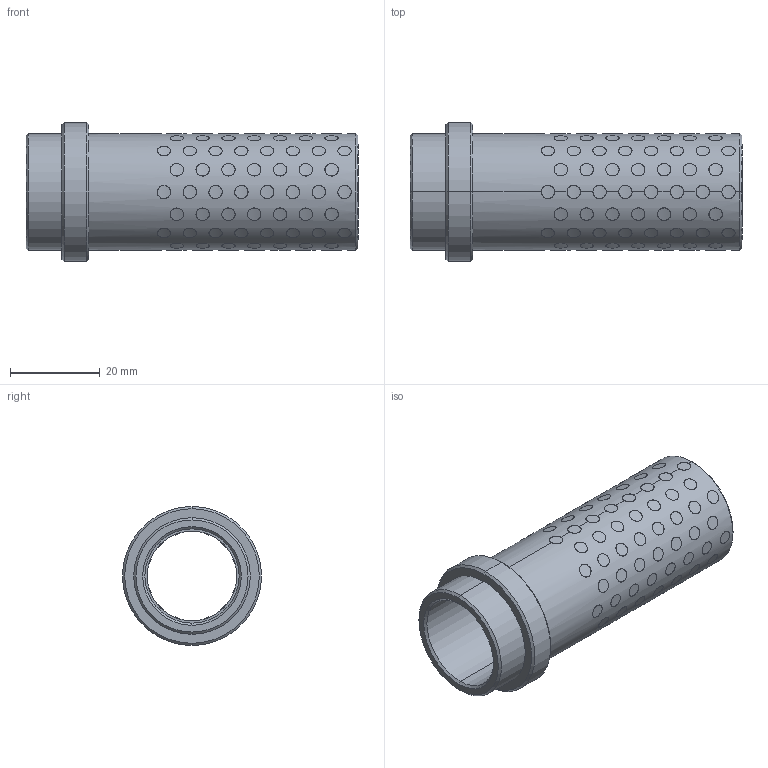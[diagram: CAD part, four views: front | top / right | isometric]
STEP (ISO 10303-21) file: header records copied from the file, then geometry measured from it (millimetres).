
FILE_DESCRIPTION((''),'2;1');
FILE_NAME('G31220066','2017-12-30T',('MANU'),(''),'PRO/ENGINEER BY PARAMETRIC TECHNOLOGY CORPORATION, 2012130','PRO/ENGINEER BY PARAMETRIC TECHNOLOGY CORPORATION, 2012130','');
FILE_SCHEMA(('CONFIG_CONTROL_DESIGN'));
Length unit declared in the file: millimetre
Products named in the file (1): G31220066
Bounding box: 74 x 31 x 31 mm (x, y, z)
Volume: 16369.4 mm3; surface area: 18312.9 mm2
Topology: 121 solids, 121 shells, 747 faces, 1590 edges, 1056 vertices
Faces by surface type: cylinder 730, cone 12, plane 5
Entity records: 34894 total; most frequent: CARTESIAN_POINT 20373, ORIENTED_EDGE 3180, DIRECTION 2092, EDGE_CURVE 1590, VERTEX_POINT 1056, B_SPLINE_CURVE_WITH_KNOTS 1024, EDGE_LOOP 960, AXIS2_PLACEMENT_3D 779
